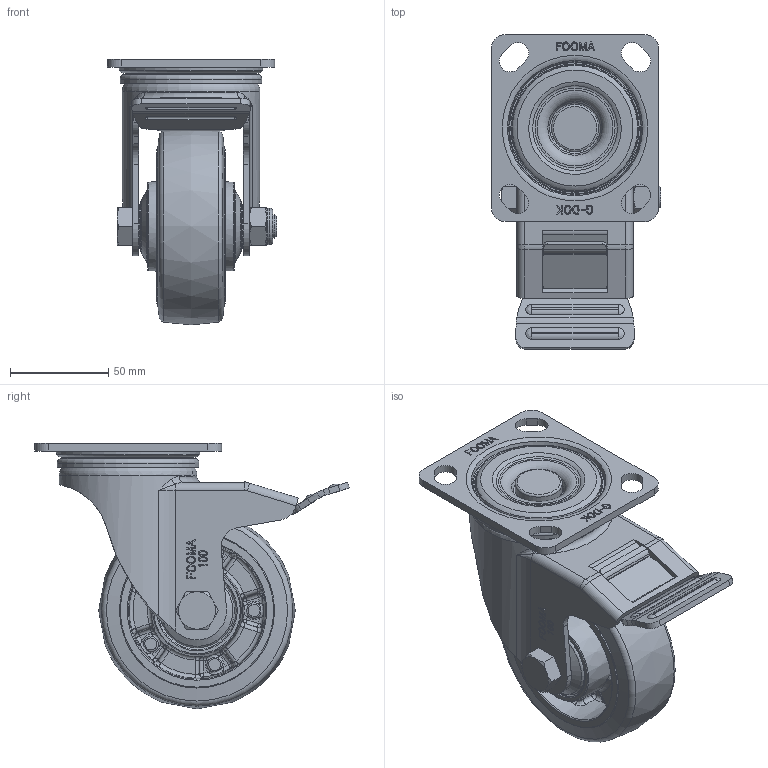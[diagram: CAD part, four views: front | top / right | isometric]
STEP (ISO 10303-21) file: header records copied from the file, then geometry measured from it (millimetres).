
FILE_DESCRIPTION(/* description */ (''),/* implementation_level */ '2;1');
FILE_NAME(/* name */ 'E:\★.DWG\★개발도면\PLM-SERIES(경중하중)-2016\홈페이지용\STEP\PLM-100-BSF-MUD.stp',/* time_stamp */ '2018-01-30T16:37:28+09:00',/* author */ ('장용하'),/* organization */ (''),/* preprocessor_version */ 'ST-DEVELOPER v16.13',/* originating_system */ 'Autodesk Inventor 2018',/* authorisation */ '');
FILE_SCHEMA (('AUTOMOTIVE_DESIGN { 1 0 10303 214 3 1 1 }'));
Length unit declared in the file: millimetre
Products named in the file (1): PLM-100-BSF-MUD ASSY_Shrinkwrap_1
Bounding box: 86 x 159.93 x 135 mm (x, y, z)
Volume: 339498.7 mm3; surface area: 102684.6 mm2
Topology: 1 solids, 1 shells, 1149 faces, 2883 edges, 1795 vertices
Faces by surface type: plane 501, bspline 304, cylinder 139, torus 135, sphere 40, cone 30
Full cylindrical faces by diameter (mm): 12 x1, 18.5 x1, 22 x4, 24 x1, 24.4 x1, 36 x2, 38 x2, 40 x2, 53.029 x1, 54.5 x1, 64 x1, 64.418 x2, 70 x1, 70.6 x1, 72 x1, 78 x2
Entity records: 39851 total; most frequent: CARTESIAN_POINT 13099, ORIENTED_EDGE 5512, DIRECTION 4859, EDGE_CURVE 2754, AXIS2_PLACEMENT_3D 1860, VERTEX_POINT 1767, EDGE_LOOP 1323, FACE_OUTER_BOUND 1149
